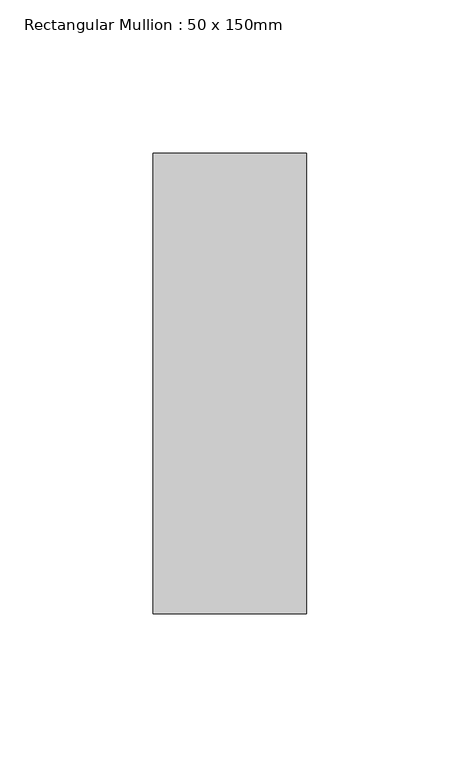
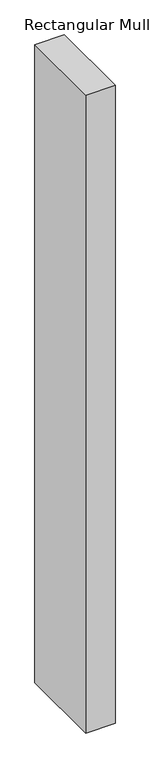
"""IFC4 building model written with IfcOpenShell, lengths in millimetres: member geometry, Rectangular Mullion : 50 x 150mm."""

from ifc_helpers import new_model, si_unit, frame, origin, place, context, project, spatial, polyline, outline, extrude, source, transform, mapped, element, save


def rectangular_mullion_50_x_150mm_2fe63767(model_context):
    return source(origin(), model_context, "Body", "SweptSolid", [
        extrude(outline(polyline([(25.0, 75.0), (25.0, -75.0), (-25.0, -75.0), (-25.0, 75.0), (25.0, 75.0)])), frame((0.0, 0.0, -1149.8468786), z_axis=(0.0, 0.0, 1.0), x_axis=(1.0, 0.0, 0.0)), (0.0, 0.0, 1.0), 1149.8468786),
    ])


if __name__ == "__main__":
    model = new_model("IFC4")
    model_context = context("Model", 3, world=origin())
    ifc_project = project(units=[si_unit("LENGTHUNIT", "METRE", prefix="MILLI")], contexts=[model_context])
    site = spatial("IfcSite", under=ifc_project)
    building = spatial("IfcBuilding", under=site)
    placement = place(None, origin())
    rectangular_mullion_50_x_150mm_shape = rectangular_mullion_50_x_150mm_2fe63767(model_context)
    element("IfcMember", 1, ObjectType="Rectangular Mullion : 50 x 150mm", at=placement, inside=building, context=model_context, shape_type="MappedRepresentation", body=[
        mapped(rectangular_mullion_50_x_150mm_shape, transform((0.0, 0.0, 0.0), x_axis=(1.0, 0.0, 0.0), y_axis=(0.0, 1.0, 0.0), z_axis=(0.0, 0.0, 1.0))),
    ])
    save(model, "model.ifc")
